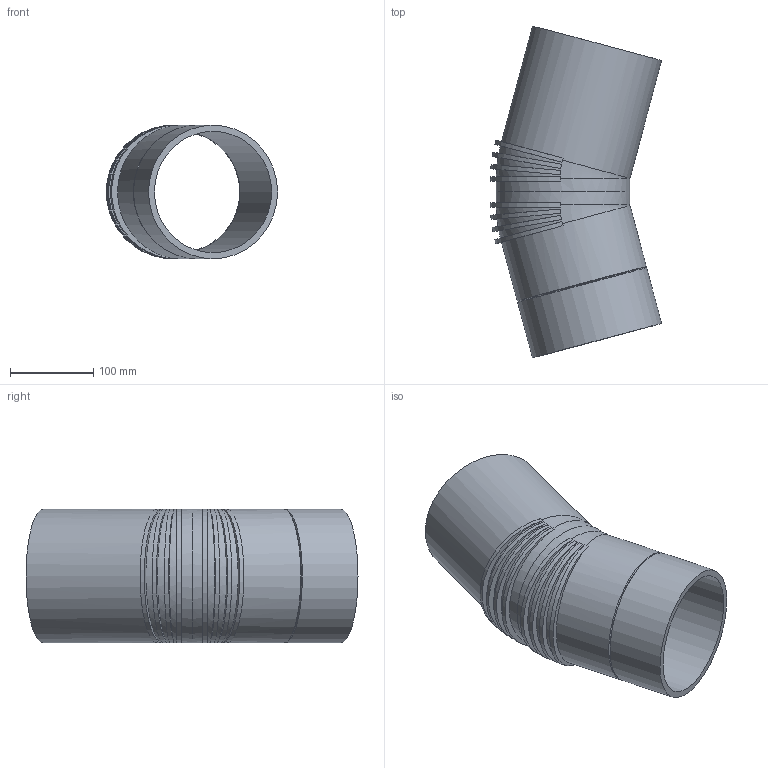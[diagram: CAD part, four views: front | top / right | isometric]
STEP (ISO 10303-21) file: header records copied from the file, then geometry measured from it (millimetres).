
FILE_DESCRIPTION(/* description */ (''),/* implementation_level */ '2;1');
FILE_NAME(/* name */ 'Z:\Geberit\Export\NewStep\315300.stp',/* time_stamp */ '2014-04-01T20:15:05+02:00',/* author */ ('Marco'),/* organization */ (''),/* preprocessor_version */ 'ST-DEVELOPER v15.2',/* originating_system */ 'Autodesk Inventor 2014',/* authorisation */ '');
FILE_SCHEMA (('AUTOMOTIVE_DESIGN { 1 0 10303 214 3 1 1 }'));
Length unit declared in the file: millimetre
Products named in the file (3): 862777; 862777k; 315300
Bounding box: 204.97 x 397.71 x 160 mm (x, y, z)
Volume: 1340411.7 mm3; surface area: 386217.1 mm2
Topology: 2 solids, 2 shells, 43 faces, 114 edges, 75 vertices
Faces by surface type: plane 20, cylinder 17, torus 4, cone 2
Full cylindrical faces by diameter (mm): 145.3 x4, 160 x5
Entity records: 2063 total; most frequent: CARTESIAN_POINT 1058, DIRECTION 182, ORIENTED_EDGE 174, EDGE_CURVE 87, AXIS2_PLACEMENT_3D 87, VERTEX_POINT 67, EDGE_LOOP 66, STYLED_ITEM 45
